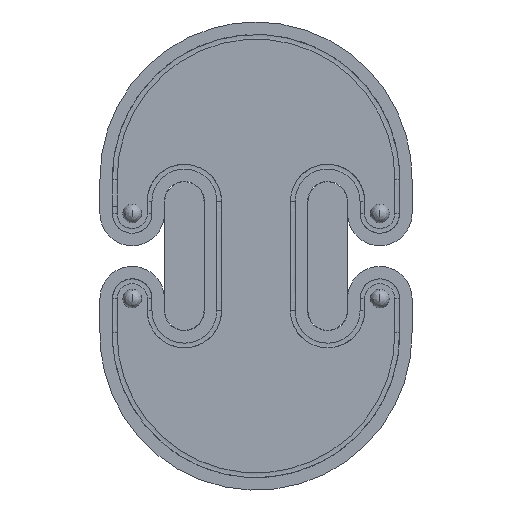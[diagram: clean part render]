
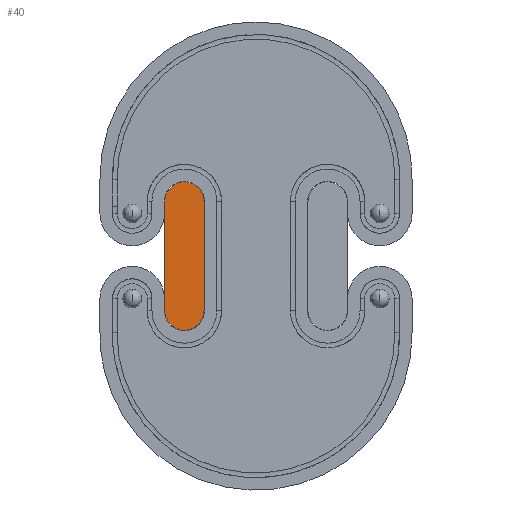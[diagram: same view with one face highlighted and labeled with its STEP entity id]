
A CAD part, front view. The second image highlights one B-rep face of the part: STEP entity #40.
In plain terms, the highlighted planar face has unit normal (0, -1, 0).
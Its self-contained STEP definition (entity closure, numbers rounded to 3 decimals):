
#40=ADVANCED_FACE('',(#111),#876,.T.);
#111=FACE_OUTER_BOUND('',#182,.T.);
#182=EDGE_LOOP('',(#292,#293,#294,#295,#296));
#292=ORIENTED_EDGE('',*,*,#614,.F.);
#293=ORIENTED_EDGE('',*,*,#611,.F.);
#294=ORIENTED_EDGE('',*,*,#608,.F.);
#295=ORIENTED_EDGE('',*,*,#605,.F.);
#296=ORIENTED_EDGE('',*,*,#601,.F.);
#601=EDGE_CURVE('',#768,#769,#1030,.T.);
#605=EDGE_CURVE('',#769,#772,#1034,.T.);
#608=EDGE_CURVE('',#772,#774,#1037,.T.);
#611=EDGE_CURVE('',#774,#776,#1040,.T.);
#614=EDGE_CURVE('',#776,#768,#1043,.T.);
#768=VERTEX_POINT('',#1727);
#769=VERTEX_POINT('',#1728);
#772=VERTEX_POINT('',#1731);
#774=VERTEX_POINT('',#1733);
#776=VERTEX_POINT('',#1735);
#876=PLANE('',#1215);
#1030=(
BOUNDED_CURVE()
B_SPLINE_CURVE(2,(#1737,#1738,#1739,#1740,#1741),.UNSPECIFIED.,.F.,.F.)
B_SPLINE_CURVE_WITH_KNOTS((3,2,3),(0.,272.495,311.247),
 .UNSPECIFIED.)
CURVE()
GEOMETRIC_REPRESENTATION_ITEM()
RATIONAL_B_SPLINE_CURVE((1.,1.,1.,1.,1.))
REPRESENTATION_ITEM('')
);
#1034=(
BOUNDED_CURVE()
B_SPLINE_CURVE(2,(#1751,#1752,#1753,#1754,#1755,#1756,#1757,#1758,#1759),
 .UNSPECIFIED.,.F.,.F.)
B_SPLINE_CURVE_WITH_KNOTS((3,2,2,2,3),(311.247,360.649,
410.052,459.455,508.857),.UNSPECIFIED.)
CURVE()
GEOMETRIC_REPRESENTATION_ITEM()
RATIONAL_B_SPLINE_CURVE((1.,0.924,1.,0.924,1.,0.924,
1.,0.924,1.))
REPRESENTATION_ITEM('')
);
#1037=(
BOUNDED_CURVE()
B_SPLINE_CURVE(2,(#1771,#1772,#1773,#1774,#1775),.UNSPECIFIED.,.F.,.F.)
B_SPLINE_CURVE_WITH_KNOTS((3,2,3),(508.857,683.857,858.857),
 .UNSPECIFIED.)
CURVE()
GEOMETRIC_REPRESENTATION_ITEM()
RATIONAL_B_SPLINE_CURVE((1.,1.,1.,1.,1.))
REPRESENTATION_ITEM('')
);
#1040=(
BOUNDED_CURVE()
B_SPLINE_CURVE(2,(#1783,#1784,#1785,#1786,#1787,#1788,#1789,#1790,#1791),
 .UNSPECIFIED.,.F.,.F.)
B_SPLINE_CURVE_WITH_KNOTS((3,2,2,2,3),(858.857,908.26,
957.663,1007.066,1056.468),.UNSPECIFIED.)
CURVE()
GEOMETRIC_REPRESENTATION_ITEM()
RATIONAL_B_SPLINE_CURVE((1.,0.924,1.,0.924,1.,0.924,
1.,0.924,1.))
REPRESENTATION_ITEM('')
);
#1043=(
BOUNDED_CURVE()
B_SPLINE_CURVE(2,(#1803,#1804,#1805),.UNSPECIFIED.,.F.,.F.)
B_SPLINE_CURVE_WITH_KNOTS((3,3),(1056.468,1095.22),
 .UNSPECIFIED.)
CURVE()
GEOMETRIC_REPRESENTATION_ITEM()
RATIONAL_B_SPLINE_CURVE((1.,1.,1.))
REPRESENTATION_ITEM('')
);
#1215=AXIS2_PLACEMENT_3D('',#1725,#1230,$);
#1230=DIRECTION('',(0.,-1.,0.));
#1725=CARTESIAN_POINT('',(2799.148,954.282,547.354));
#1727=CARTESIAN_POINT('',(2940.768,954.282,386.225));
#1728=CARTESIAN_POINT('',(2940.686,954.282,74.978));
#1731=CARTESIAN_POINT('',(2814.884,954.282,74.977));
#1733=CARTESIAN_POINT('',(2814.884,954.282,424.977));
#1735=CARTESIAN_POINT('',(2940.686,954.282,424.976));
#1737=CARTESIAN_POINT('',(2940.768,954.282,386.225));
#1738=CARTESIAN_POINT('',(2940.768,954.282,249.977));
#1739=CARTESIAN_POINT('',(2940.768,954.282,113.73));
#1740=CARTESIAN_POINT('',(2940.727,954.282,94.354));
#1741=CARTESIAN_POINT('',(2940.686,954.282,74.978));
#1751=CARTESIAN_POINT('',(2940.686,954.282,74.978));
#1752=CARTESIAN_POINT('',(2940.687,954.282,48.924));
#1753=CARTESIAN_POINT('',(2922.264,954.282,30.5));
#1754=CARTESIAN_POINT('',(2903.84,954.282,12.076));
#1755=CARTESIAN_POINT('',(2877.786,954.282,12.076));
#1756=CARTESIAN_POINT('',(2851.731,954.282,12.076));
#1757=CARTESIAN_POINT('',(2833.307,954.282,30.499));
#1758=CARTESIAN_POINT('',(2814.884,954.282,48.923));
#1759=CARTESIAN_POINT('',(2814.884,954.282,74.977));
#1771=CARTESIAN_POINT('',(2814.884,954.282,74.977));
#1772=CARTESIAN_POINT('',(2814.884,954.282,162.477));
#1773=CARTESIAN_POINT('',(2814.884,954.282,249.977));
#1774=CARTESIAN_POINT('',(2814.884,954.282,337.477));
#1775=CARTESIAN_POINT('',(2814.884,954.282,424.977));
#1783=CARTESIAN_POINT('',(2814.884,954.282,424.977));
#1784=CARTESIAN_POINT('',(2814.884,954.282,451.032));
#1785=CARTESIAN_POINT('',(2833.307,954.282,469.455));
#1786=CARTESIAN_POINT('',(2851.731,954.282,487.879));
#1787=CARTESIAN_POINT('',(2877.786,954.282,487.878));
#1788=CARTESIAN_POINT('',(2903.84,954.282,487.878));
#1789=CARTESIAN_POINT('',(2922.264,954.282,469.455));
#1790=CARTESIAN_POINT('',(2940.687,954.282,451.031));
#1791=CARTESIAN_POINT('',(2940.686,954.282,424.976));
#1803=CARTESIAN_POINT('',(2940.686,954.282,424.976));
#1804=CARTESIAN_POINT('',(2940.727,954.282,405.6));
#1805=CARTESIAN_POINT('',(2940.768,954.282,386.225));
